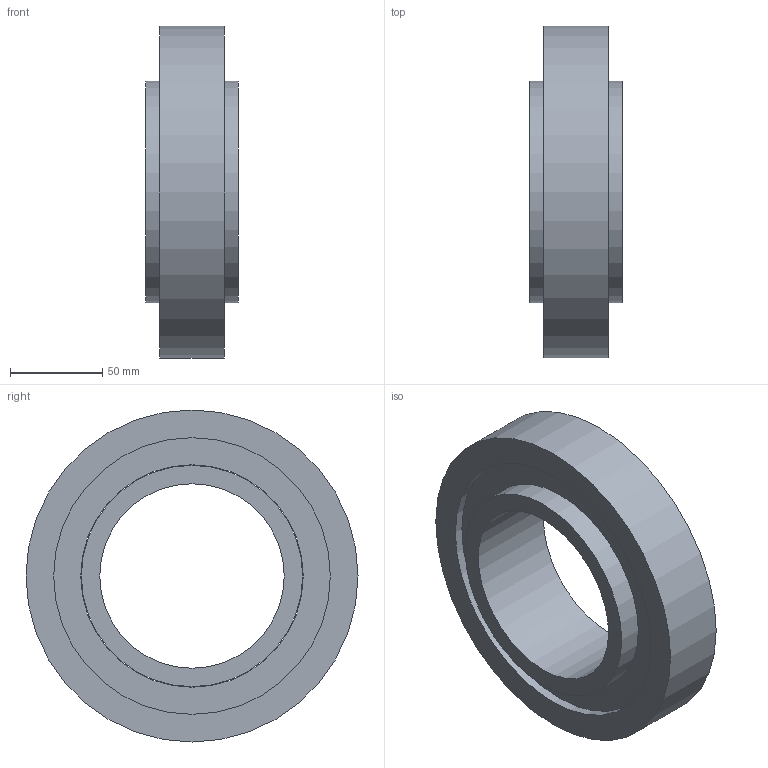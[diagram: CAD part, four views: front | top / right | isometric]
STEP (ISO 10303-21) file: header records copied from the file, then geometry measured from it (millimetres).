
FILE_DESCRIPTION(('Open CASCADE Model'),'2;1');
FILE_NAME('Open CASCADE Shape Model','2026-09-14T16:31:49',('Author'),( 'Open CASCADE'),'Open CASCADE STEP processor 7.8','Open CASCADE 7.8' ,'Unknown');
FILE_SCHEMA(('AUTOMOTIVE_DESIGN { 1 0 10303 214 1 1 1 1 }'));
Length unit declared in the file: millimetre
Products named in the file (4): Open CASCADE STEP translator 7.8 1; Open CASCADE STEP translator 7.8 1.1; Open CASCADE STEP translator 7.8 1.2; Open CASCADE STEP translator 7.8 1.3
Assembly tree (3 placements, depth 2):
  Open CASCADE STEP translator 7.8 1
    Open CASCADE STEP translator 7.8 1.1
    Open CASCADE STEP translator 7.8 1.2
    Open CASCADE STEP translator 7.8 1.3
Bounding box: 50 x 180 x 180 mm (x, y, z)
Volume: 601136.7 mm3; surface area: 127054.9 mm2
Topology: 3 solids, 3 shells, 12 faces, 18 edges, 12 vertices
Faces by surface type: cylinder 6, plane 6
Full cylindrical faces by diameter (mm): 100 x1, 120 x1, 120.6 x1, 150 x2, 180 x1
Entity records: 580 total; most frequent: DIRECTION 98, CARTESIAN_POINT 82, ORIENTED_EDGE 36, PCURVE 36, DEFINITIONAL_REPRESENTATION 36, LINE 30, VECTOR 30, AXIS2_PLACEMENT_3D 28
